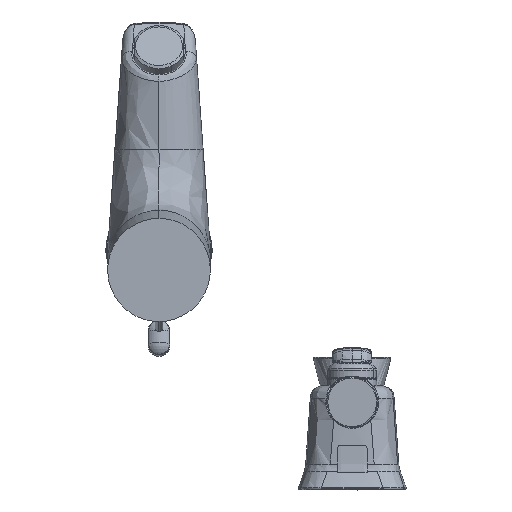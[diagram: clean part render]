
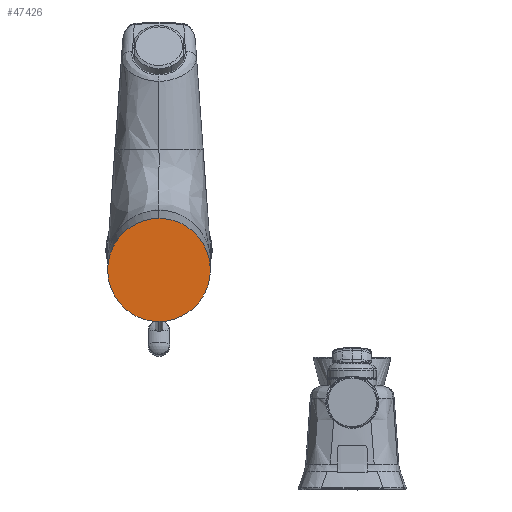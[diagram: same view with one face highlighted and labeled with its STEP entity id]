
A CAD part, front view. The second image highlights one B-rep face of the part: STEP entity #47426.
In plain terms, the highlighted planar face has unit normal (0, -1, 0).
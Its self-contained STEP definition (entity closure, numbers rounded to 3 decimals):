
#1522 = AXIS2_PLACEMENT_3D ( 'NONE', #20830, #15595, #62659 ) ;
#11533 = CARTESIAN_POINT ( 'NONE',  ( 0., 0., -23.605 ) ) ;
#13555 = CARTESIAN_POINT ( 'NONE',  ( -47.015, 0., 23.59 ) ) ;
#14329 = FACE_OUTER_BOUND ( 'NONE', #49150, .T. ) ;
#14461 =( BOUNDED_CURVE ( )  B_SPLINE_CURVE ( 3, ( #11533, #48139, #53634, #35580 ),
 .UNSPECIFIED., .F., .F. ) 
 B_SPLINE_CURVE_WITH_KNOTS ( ( 4, 4 ),
 ( 0., 3.142 ),
 .UNSPECIFIED. ) 
 CURVE ( )  GEOMETRIC_REPRESENTATION_ITEM ( )  RATIONAL_B_SPLINE_CURVE ( ( 1., 0.333, 0.333, 1. ) ) 
 REPRESENTATION_ITEM ( '' )  );
#14568 = CARTESIAN_POINT ( 'NONE',  ( 0., 0., 23.59 ) ) ;
#15595 = DIRECTION ( 'NONE',  ( 0., 1., 0. ) ) ;
#15791 = VERTEX_POINT ( 'NONE', #53987 ) ;
#20830 = CARTESIAN_POINT ( 'NONE',  ( -9.5, 0., -8.5 ) ) ;
#21612 = PLANE ( 'NONE',  #1522 ) ;
#23149 = ORIENTED_EDGE ( 'NONE', *, *, #43223, .T. ) ;
#31682 = ORIENTED_EDGE ( 'NONE', *, *, #68192, .T. ) ;
#32753 = CARTESIAN_POINT ( 'NONE',  ( 0., 0., 23.59 ) ) ;
#35580 = CARTESIAN_POINT ( 'NONE',  ( 0., 0., 23.59 ) ) ;
#36269 = VERTEX_POINT ( 'NONE', #32753 ) ;
#43223 = EDGE_CURVE ( 'NONE', #36269, #15791, #73329, .T. ) ;
#44366 = CARTESIAN_POINT ( 'NONE',  ( 0., 0., -23.605 ) ) ;
#47426 = ADVANCED_FACE ( 'NONE', ( #14329 ), #21612, .F. ) ;
#48139 = CARTESIAN_POINT ( 'NONE',  ( 47.015, 0., -23.605 ) ) ;
#49150 = EDGE_LOOP ( 'NONE', ( #31682, #23149 ) ) ;
#53634 = CARTESIAN_POINT ( 'NONE',  ( 47.015, 0., 23.59 ) ) ;
#53987 = CARTESIAN_POINT ( 'NONE',  ( 0., 0., -23.605 ) ) ;
#62659 = DIRECTION ( 'NONE',  ( 0., 0., 1. ) ) ;
#68192 = EDGE_CURVE ( 'NONE', #15791, #36269, #14461, .T. ) ;
#73329 =( BOUNDED_CURVE ( )  B_SPLINE_CURVE ( 3, ( #14568, #13555, #73936, #44366 ),
 .UNSPECIFIED., .F., .T. ) 
 B_SPLINE_CURVE_WITH_KNOTS ( ( 4, 4 ),
 ( 3.142, 6.283 ),
 .UNSPECIFIED. ) 
 CURVE ( )  GEOMETRIC_REPRESENTATION_ITEM ( )  RATIONAL_B_SPLINE_CURVE ( ( 1., 0.333, 0.333, 1. ) ) 
 REPRESENTATION_ITEM ( '' )  );
#73936 = CARTESIAN_POINT ( 'NONE',  ( -47.015, 0., -23.605 ) ) ;
